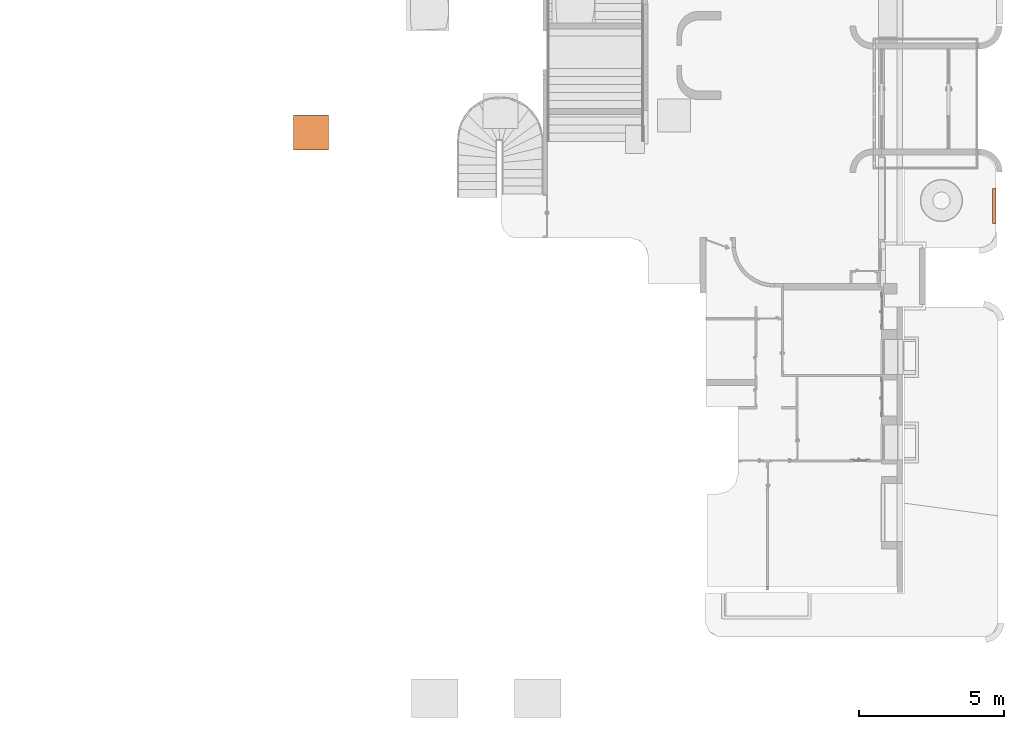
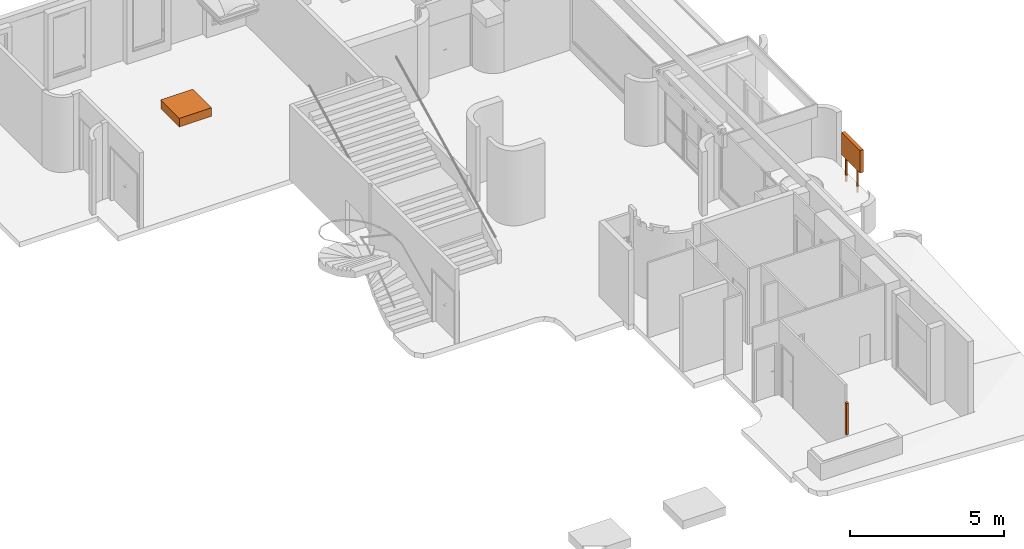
# One storey, part 9 of 10: 3 proxies.
"""IFC2X3 building model written with IfcOpenShell, lengths in metres."""

import ifcopenshell
import ifcopenshell.guid

model = None  # the IFC model being written
_history = None  # IfcOwnerHistory: only IFC2X3 demands one
_inside = {}  # id of a spatial element -> (the spatial element, [elements in it])
_under = {}  # id of a project, library or spatial element -> (it, [spatial elements below it])
_declared = {}  # id of a project -> (the project, [libraries it declares])
_typed = {}  # id of a type object -> (the type object, [elements of that type])
_made_of = {}  # id of a material, layer set ... -> (it, [elements and type objects made of it])


def new_model(schema):
    """Start an empty IFC model of exactly this schema.

    Asked for "IFC4X3", IfcOpenShell would pick the latest addendum, in which some entities
    have other attributes; the version numbers below select the first issue.
    IFC2X3 requires an IfcOwnerHistory on every rooted entity: one is made here for all.
    """
    global model, _history
    if schema == "IFC4X3":
        model = ifcopenshell.file(schema_version=(4, 3, 0, 0))
    else:
        model = ifcopenshell.file(schema=schema)
    _inside.clear()
    _under.clear()
    _declared.clear()
    _typed.clear()
    _made_of.clear()
    _history = None
    if model.schema == "IFC2X3":
        org = make("IfcOrganization", Name="unknown")
        user = make(
            "IfcPersonAndOrganization",
            ThePerson=make("IfcPerson", FamilyName="unknown"),
            TheOrganization=org,
        )
        app = make(
            "IfcApplication",
            ApplicationDeveloper=org,
            Version="unknown",
            ApplicationFullName="unknown",
            ApplicationIdentifier="unknown",
        )
        _history = make(
            "IfcOwnerHistory",
            OwningUser=user,
            OwningApplication=app,
            ChangeAction="ADDED",
            CreationDate=0,
        )
    return model


def make(cls, **values):
    """One entity of the class cls with the attributes given. An attribute that is None is left unset."""
    return model.create_entity(
        cls, **{name: value for name, value in values.items() if value is not None}
    )


def entity(cls, *values):
    """Any entity or typed value of the class cls, its attributes in the order of the schema. None: left unset."""
    e = model.create_entity(cls)
    for i, value in enumerate(values):
        if value is not None:
            e[i] = value
    return e


def rooted(cls, **values):
    """An entity with a GlobalId (a new one), such as an element, a storey or a relation."""
    return make(cls, GlobalId=ifcopenshell.guid.new(), OwnerHistory=_history, **values)


def si_unit(unit_type, name, prefix=None):
    """IfcSIUnit, for example si_unit("LENGTHUNIT", "METRE", prefix="MILLI")."""
    return make("IfcSIUnit", UnitType=unit_type, Prefix=prefix, Name=name)


def converted_unit(unit_type, name, factor, base, dimensions=None, offset=None):
    """IfcConversionBasedUnit, such as the inch: factor (a typed value) times the base unit."""
    return make(
        "IfcConversionBasedUnit"
        if offset is None
        else "IfcConversionBasedUnitWithOffset",
        ConversionOffset=offset,
        Dimensions=None
        if dimensions is None
        else entity("IfcDimensionalExponents", *dimensions),
        UnitType=unit_type,
        Name=name,
        ConversionFactor=make(
            "IfcMeasureWithUnit", ValueComponent=factor, UnitComponent=base
        ),
    )


def derived_unit(unit_type, elements):
    """IfcDerivedUnit: a product of units, each with its exponent."""
    return make(
        "IfcDerivedUnit",
        Elements=[
            make("IfcDerivedUnitElement", Unit=unit, Exponent=power)
            for unit, power in elements
        ],
        UnitType=unit_type,
    )


def assignment(units):
    """IfcUnitAssignment: the units of a project."""
    return None if units is None else make("IfcUnitAssignment", Units=units)


def point(xyz):
    """IfcCartesianPoint."""
    return None if xyz is None else make("IfcCartesianPoint", Coordinates=xyz)


def direction(xyz):
    """IfcDirection."""
    return None if xyz is None else make("IfcDirection", DirectionRatios=xyz)


def frame(location, z_axis=None, x_axis=None):
    """IfcAxis2Placement3D, a coordinate frame: its origin and axes. An axis left out is left unset."""
    return make(
        "IfcAxis2Placement3D",
        Location=point(location),
        Axis=direction(z_axis),
        RefDirection=direction(x_axis),
    )


def frame_2d(location, x_axis=None):
    """IfcAxis2Placement2D, a coordinate frame in the plane: its origin and x axis."""
    return make(
        "IfcAxis2Placement2D", Location=point(location), RefDirection=direction(x_axis)
    )


def origin():
    """The frame at (0, 0, 0) with its axes left unset."""
    return frame((0.0, 0.0, 0.0))


def origin_2d_with_axis():
    """The frame at (0, 0) in the plane with the x axis (1, 0) written out."""
    return frame_2d((0.0, 0.0), x_axis=(1.0, 0.0))


def place(relative_to, where):
    """IfcLocalPlacement: puts the frame where relative to a parent placement (None: the world)."""
    return make(
        "IfcLocalPlacement", PlacementRelTo=relative_to, RelativePlacement=where
    )


def context(
    kind, dimensions, precision=None, world=None, true_north=None, identifier=None
):
    """IfcGeometricRepresentationContext, for example the 3D "Model" context."""
    return make(
        "IfcGeometricRepresentationContext",
        ContextIdentifier=identifier,
        ContextType=kind,
        CoordinateSpaceDimension=dimensions,
        Precision=precision,
        WorldCoordinateSystem=world,
        TrueNorth=true_north,
    )


def subcontext(parent, identifier, kind, view, scale=None):
    """IfcGeometricRepresentationSubContext, for example "Body" below "Model"."""
    return make(
        "IfcGeometricRepresentationSubContext",
        ContextIdentifier=identifier,
        ContextType=kind,
        ParentContext=parent,
        TargetScale=scale,
        TargetView=view,
    )


def project(units=None, contexts=None):
    """IfcProject with its units and contexts."""
    return rooted(
        "IfcProject",
        Name="project",
        RepresentationContexts=contexts,
        UnitsInContext=assignment(units),
    )


def spatial(cls, under=None, at=None, **own):
    """A site, building, storey or space (cls), placed at a placement, below another one or the project."""
    s = rooted(cls, ObjectPlacement=at, **own)
    if under is not None:
        _under.setdefault(under.id(), (under, []))[1].append(s)
    return s


def profile(cls, at=None, kind="AREA", **sizes):
    """A parametric profile (cls). Its sizes go by their IFC names, for example OverallWidth=200.0."""
    return make(cls, ProfileType=kind, Position=at, **sizes)


def rectangle(**sizes):
    """IfcRectangleProfileDef."""
    return profile("IfcRectangleProfileDef", **sizes)


def extrude(swept, where, along, depth):
    """IfcExtrudedAreaSolid: the profile swept, set in the frame where, extruded along a direction by depth."""
    return make(
        "IfcExtrudedAreaSolid",
        SweptArea=swept,
        Position=where,
        ExtrudedDirection=direction(along),
        Depth=depth,
    )


def faces_of(points, faces, orient=None, outer=None):
    """IfcFace entities. A face is a list of loops; a loop is a list of indices into points, from 0.

    orient and outer hold one flag for each loop. By default every Orientation is true, the
    first loop of a face is its IfcFaceOuterBound and the others are IfcFaceBound.
    """
    made = []
    for i, loops in enumerate(faces):
        bounds = []
        for j, loop in enumerate(loops):
            is_outer = j == 0 if outer is None else outer[i][j]
            bounds.append(
                make(
                    "IfcFaceOuterBound" if is_outer else "IfcFaceBound",
                    Bound=make("IfcPolyLoop", Polygon=[points[k] for k in loop]),
                    Orientation=True if orient is None else orient[i][j],
                )
            )
        made.append(make("IfcFace", Bounds=bounds))
    return made


def faceted_brep(points, faces, orient=None, outer=None, voids=None):
    """IfcFacetedBrep: a solid bounded by flat faces; with voids (closed shells), ...WithVoids."""
    shared = [point(p) for p in points]
    hull = make("IfcClosedShell", CfsFaces=faces_of(shared, faces, orient, outer))
    if voids is None:
        return make("IfcFacetedBrep", Outer=hull)
    return make(
        "IfcFacetedBrepWithVoids",
        Outer=hull,
        Voids=[
            make(cls, CfsFaces=faces_of(shared, fs, o, b)) for cls, fs, o, b in voids
        ],
    )


def shape(context_of_items, identifier, shape_type, items):
    """IfcShapeRepresentation: the items that make up one representation, for example the "Body"."""
    return make(
        "IfcShapeRepresentation",
        ContextOfItems=context_of_items,
        RepresentationIdentifier=identifier,
        RepresentationType=shape_type,
        Items=items,
    )


def source(mapping_origin, context_of_items, identifier, shape_type, items):
    """IfcRepresentationMap: a shape defined once, which mapped items show again and again."""
    return make(
        "IfcRepresentationMap",
        MappingOrigin=mapping_origin,
        MappedRepresentation=shape(context_of_items, identifier, shape_type, items),
    )


def transform(
    local_origin,
    x_axis=None,
    y_axis=None,
    z_axis=None,
    scale=None,
    scale2=None,
    scale3=None,
    uniform=True,
):
    """IfcCartesianTransformationOperator3D, or its non-uniform kind. x_axis, y_axis, z_axis: its Axis1, 2, 3."""
    if uniform:
        return make(
            "IfcCartesianTransformationOperator3D",
            Axis1=direction(x_axis),
            Axis2=direction(y_axis),
            LocalOrigin=point(local_origin),
            Scale=scale,
            Axis3=direction(z_axis),
        )
    return make(
        "IfcCartesianTransformationOperator3DnonUniform",
        Axis1=direction(x_axis),
        Axis2=direction(y_axis),
        LocalOrigin=point(local_origin),
        Scale=scale,
        Axis3=direction(z_axis),
        Scale2=scale2,
        Scale3=scale3,
    )


def mapped(mapping_source, mapping_target):
    """IfcMappedItem: shows the shape of a source again, moved by a transform."""
    return make(
        "IfcMappedItem", MappingSource=mapping_source, MappingTarget=mapping_target
    )


def material(Name=None, Category=None):
    """IfcMaterial."""
    return make("IfcMaterial", Name=Name, Category=Category)


def material_list(materials):
    """IfcMaterialList."""
    return make("IfcMaterialList", Materials=materials)


def made_of(thing, what):
    """Note that an element or type object is made of a material, layer set ...; save() writes the relation."""
    if what is not None:
        _made_of.setdefault(what.id(), (what, []))[1].append(thing)
    return thing


def type_object(cls, material=None, **own):
    """A type object (cls), such as IfcWallType, which elements share."""
    return made_of(rooted(cls, **own), material)


def type_shapes(of_type, sources):
    """Give a type object the sources (RepresentationMaps) that its elements show as mapped items."""
    of_type.RepresentationMaps = sources


def element(
    cls,
    number,
    at=None,
    inside=None,
    cuts=None,
    type_object=None,
    material=None,
    context=None,
    identifier="Body",
    shape_type=None,
    held_by="IfcProductDefinitionShape",
    body=None,
    shapes=None,
    **own,
):
    """One element of the class cls, such as IfcWall. Its Tag is "e" and its number.

    at: its placement. inside: the storey or other place that contains it. cuts: it is an
    opening in that element (IfcRelVoidsElement). A single representation is given by context,
    identifier, shape_type and body (its items); several are given by shapes. held_by: the class
    of the entity that holds the representations. save() writes the other relations.
    """
    e = rooted(cls, Tag="e%d" % number, ObjectPlacement=at, **own)
    if body is not None:
        shapes = [shape(context, identifier, shape_type, body)]
    if shapes is not None:
        e.Representation = make(held_by, Representations=shapes)
    if inside is not None:
        _inside.setdefault(inside.id(), (inside, []))[1].append(e)
    if cuts is not None:
        rooted(
            "IfcRelVoidsElement", RelatingBuildingElement=cuts, RelatedOpeningElement=e
        )
    if type_object is not None:
        _typed.setdefault(type_object.id(), (type_object, []))[1].append(e)
    return made_of(e, material)


def aggregate(whole, parts):
    """IfcRelAggregates: a whole, such as a stair, and the parts it consists of."""
    return rooted("IfcRelAggregates", RelatingObject=whole, RelatedObjects=parts)


def save(model, path):
    """Write the relations noted so far, then the file.

    IfcRelAggregates (storeys below a building ...), IfcRelContainedInSpatialStructure (elements
    in a storey), IfcRelDefinesByType, IfcRelAssociatesMaterial and IfcRelDeclares: one each for
    every whole, place, type object, material and project.
    """
    for whole, parts in _under.values():
        aggregate(whole, parts)
    for where, things in _inside.values():
        rooted(
            "IfcRelContainedInSpatialStructure",
            RelatedElements=things,
            RelatingStructure=where,
        )
    for kind, things in _typed.values():
        rooted("IfcRelDefinesByType", RelatedObjects=things, RelatingType=kind)
    for what, things in _made_of.values():
        rooted("IfcRelAssociatesMaterial", RelatedObjects=things, RelatingMaterial=what)
    for by, libraries in _declared.values():
        rooted("IfcRelDeclares", RelatingContext=by, RelatedDefinitions=libraries)
    model.write(path)


model = new_model("IFC2X3")

# Units and contexts
model_context = context("Model", 3, precision=1e-05, world=origin(), true_north=direction((6.12303176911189e-17, 1.0)))
body_context = subcontext(model_context, "Body", "Model", "MODEL_VIEW")
ifc_project = project(units=[si_unit("LENGTHUNIT", "METRE"), si_unit("AREAUNIT", "SQUARE_METRE"), si_unit("VOLUMEUNIT", "CUBIC_METRE"), converted_unit("PLANEANGLEUNIT", "DEGREE", entity("IfcRatioMeasure", 0.0174532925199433), si_unit("PLANEANGLEUNIT", "RADIAN"), dimensions=[0, 0, 0, 0, 0, 0, 0]), si_unit("MASSUNIT", "GRAM", prefix="KILO"), derived_unit("MASSDENSITYUNIT", [(si_unit("MASSUNIT", "GRAM", prefix="KILO"), 1), (si_unit("LENGTHUNIT", "METRE"), -3)]), derived_unit("MOMENTOFINERTIAUNIT", [(si_unit("LENGTHUNIT", "METRE"), 4)]), si_unit("TIMEUNIT", "SECOND"), si_unit("FREQUENCYUNIT", "HERTZ"), si_unit("THERMODYNAMICTEMPERATUREUNIT", "DEGREE_CELSIUS"), derived_unit("THERMALTRANSMITTANCEUNIT", [(si_unit("MASSUNIT", "GRAM", prefix="KILO"), 1), (si_unit("THERMODYNAMICTEMPERATUREUNIT", "KELVIN"), -1), (si_unit("TIMEUNIT", "SECOND"), -3)]), derived_unit("VOLUMETRICFLOWRATEUNIT", [(si_unit("LENGTHUNIT", "METRE"), 3), (si_unit("TIMEUNIT", "SECOND"), -1)]), si_unit("ELECTRICCURRENTUNIT", "AMPERE"), si_unit("ELECTRICVOLTAGEUNIT", "VOLT"), si_unit("POWERUNIT", "WATT"), si_unit("FORCEUNIT", "NEWTON", prefix="KILO"), si_unit("ILLUMINANCEUNIT", "LUX"), si_unit("LUMINOUSFLUXUNIT", "LUMEN"), si_unit("LUMINOUSINTENSITYUNIT", "CANDELA"), derived_unit("USERDEFINED", [(si_unit("MASSUNIT", "GRAM", prefix="KILO"), -1), (si_unit("LENGTHUNIT", "METRE"), -2), (si_unit("TIMEUNIT", "SECOND"), 3), (si_unit("LUMINOUSFLUXUNIT", "LUMEN"), 1)]), derived_unit("LINEARVELOCITYUNIT", [(si_unit("LENGTHUNIT", "METRE"), 1), (si_unit("TIMEUNIT", "SECOND"), -1)]), si_unit("PRESSUREUNIT", "PASCAL"), derived_unit("USERDEFINED", [(si_unit("LENGTHUNIT", "METRE"), -2), (si_unit("MASSUNIT", "GRAM", prefix="KILO"), 1), (si_unit("TIMEUNIT", "SECOND"), -2)]), derived_unit("LINEARFORCEUNIT", [(si_unit("MASSUNIT", "GRAM", prefix="KILO"), 1), (si_unit("LENGTHUNIT", "METRE"), 1), (si_unit("TIMEUNIT", "SECOND"), -2), (si_unit("LENGTHUNIT", "METRE"), -1)]), derived_unit("PLANARFORCEUNIT", [(si_unit("MASSUNIT", "GRAM", prefix="KILO"), 1), (si_unit("LENGTHUNIT", "METRE"), 1), (si_unit("TIMEUNIT", "SECOND"), -2), (si_unit("LENGTHUNIT", "METRE"), -2)])], contexts=[model_context])

# Site, building, storey
site_placement = place(None, origin())
site = spatial("IfcSite", under=ifc_project, at=site_placement, Name="Default", CompositionType="ELEMENT")
building_placement = place(site_placement, origin())
building = spatial("IfcBuilding", under=site, at=building_placement, CompositionType="ELEMENT")
storey_placement = place(building_placement, frame((0.0, 0.0, 0.893308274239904)))
storey = spatial("IfcBuildingStorey", under=building, at=storey_placement, Name="Niveau 00 - 02", CompositionType="ELEMENT", Elevation=0.893308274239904)

# Proxies
ifc_material_1 = material(Name="Verre")
ifc_material_2 = material(Name="Métal - Aluminium")
ifc_material_list_1 = material_list([ifc_material_1, ifc_material_2])
ifc_material_list_2 = material_list([ifc_material_2, ifc_material_1])
building_element_proxy_type_1 = type_object("IfcBuildingElementProxyType", Name="Famille 0:Famille 110x110", PredefinedType="NOTDEFINED", material=ifc_material_list_2)
shared_shape_1 = source(origin(), body_context, "Body", "Brep", [
    faceted_brep([(0.575, -0.575000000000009, 0.175991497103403), (-0.575, -0.575000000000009, 0.175991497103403), (-0.575, 0.574999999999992, 0.175991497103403), (0.575, 0.574999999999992, 0.175991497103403), (0.575, -0.575000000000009, 0.195154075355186), (0.575, 0.574999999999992, 0.195154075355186), (-0.575, 0.574999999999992, 0.195154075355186), (-0.575, -0.575000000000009, 0.195154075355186)], [[[0, 1, 2, 3]], [[4, 5, 6, 7]], [[5, 4, 0, 3]], [[6, 5, 3, 2]], [[7, 6, 2, 1]], [[4, 7, 1, 0]]]),
    faceted_brep([(-0.575, -0.575000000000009, 0.195154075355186), (-0.607499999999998, -0.607500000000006, 0.195154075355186), (0.607499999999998, -0.607500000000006, 0.195154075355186), (0.575, -0.575000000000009, 0.195154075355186), (-0.549999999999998, -0.550000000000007, -0.150000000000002), (-0.549999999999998, -0.550000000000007, 0.175991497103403), (0.549999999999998, -0.550000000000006, 0.175991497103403), (0.549999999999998, -0.550000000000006, -0.150000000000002), (-0.599999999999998, -0.600000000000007, -0.150000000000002), (0.599999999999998, -0.600000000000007, -0.150000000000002), (0.607499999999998, 0.60749999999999, 0.195154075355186), (0.575, 0.574999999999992, 0.195154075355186), (0.549999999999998, 0.54999999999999, 0.175991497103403), (0.549999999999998, 0.54999999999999, -0.150000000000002), (0.599999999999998, 0.59999999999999, -0.150000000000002), (-0.607499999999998, 0.60749999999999, 0.195154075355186), (-0.575, 0.574999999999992, 0.195154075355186), (-0.549999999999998, 0.54999999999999, 0.175991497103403), (-0.549999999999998, 0.54999999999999, -0.150000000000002), (-0.599999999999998, 0.59999999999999, -0.150000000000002), (-0.607499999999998, -0.607500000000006, 0.169999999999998), (-0.599999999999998, -0.600000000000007, 0.169999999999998), (0.599999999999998, -0.600000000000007, 0.169999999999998), (0.607499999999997, -0.607500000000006, 0.169999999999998), (-0.575, -0.575000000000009, 0.175991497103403), (0.575, -0.575000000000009, 0.175991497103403), (0.599999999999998, 0.59999999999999, 0.169999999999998), (0.607499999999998, 0.60749999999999, 0.169999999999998), (0.575, 0.574999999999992, 0.175991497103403), (-0.599999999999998, 0.59999999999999, 0.169999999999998), (-0.607499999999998, 0.60749999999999, 0.169999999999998), (-0.575, 0.574999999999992, 0.175991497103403)], [[[0, 1, 2, 3]], [[4, 5, 6, 7]], [[8, 4, 7, 9]], [[3, 2, 10, 11]], [[7, 6, 12, 13]], [[9, 7, 13, 14]], [[11, 10, 15, 16]], [[13, 12, 17, 18]], [[14, 13, 18, 19]], [[16, 15, 1, 0]], [[18, 17, 5, 4]], [[19, 18, 4, 8]], [[20, 21, 22, 23]], [[24, 0, 3, 25]], [[5, 24, 25, 6]], [[23, 22, 26, 27]], [[25, 3, 11, 28]], [[6, 25, 28, 12]], [[27, 26, 29, 30]], [[28, 11, 16, 31]], [[12, 28, 31, 17]], [[30, 29, 21, 20]], [[31, 16, 0, 24]], [[17, 31, 24, 5]], [[21, 8, 9, 22]], [[1, 20, 23, 2]], [[22, 9, 14, 26]], [[2, 23, 27, 10]], [[26, 14, 19, 29]], [[10, 27, 30, 15]], [[29, 19, 8, 21]], [[15, 30, 20, 1]]]),
])
type_shapes(building_element_proxy_type_1, [shared_shape_1])
proxy_1_placement = place(storey_placement, frame((-17.374093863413, -5.13394034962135, 9.96), z_axis=(0.0, 0.0, 1.0), x_axis=(0.0, -1.0, 0.0)))
element("IfcBuildingElementProxy", 1, at=proxy_1_placement, inside=storey, type_object=building_element_proxy_type_1, material=ifc_material_list_1, Name="Famille 0:Famille 110x110", ObjectType="Famille 0:Famille 110x110", context=body_context, shape_type="MappedRepresentation", body=[
    mapped(shared_shape_1, transform((0.0, 0.0, 0.0), scale=1.0)),
])
building_element_proxy_type_2 = type_object("IfcBuildingElementProxyType", Name="Modèles génériques 4:Modèles génériques 4", PredefinedType="NOTDEFINED")
shared_shape_2 = source(origin(), body_context, "Body", "SweptSolid", [
    extrude(rectangle(XDim=0.0549999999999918, YDim=0.0456803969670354, at=frame_2d((0.0, -5.41233724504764e-16), x_axis=(1.0, 0.0))), frame((6.29673832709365, -8.03661678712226, 1.04808386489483)), (0.0, 0.0, 1.0), 0.908724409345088),
    extrude(rectangle(XDim=0.0549999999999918, YDim=0.0456803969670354, at=frame_2d((0.0, -5.41233724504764e-16), x_axis=(1.0, 0.0))), frame((6.29673832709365, -7.31966533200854, 1.04808386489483)), (0.0, 0.0, 1.0), 0.908724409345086),
    extrude(rectangle(XDim=0.122777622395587, YDim=1.20010733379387, at=origin_2d_with_axis()), frame((6.33062713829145, -7.668269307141, 1.95680827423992)), (0.0, 0.0, 1.0), 0.896110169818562),
])
type_shapes(building_element_proxy_type_2, [shared_shape_2])
proxy_2_placement = place(storey_placement, frame((-0.12, 0.0, -0.893308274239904)))
element("IfcBuildingElementProxy", 2, at=proxy_2_placement, inside=storey, type_object=building_element_proxy_type_2, Name="Modèles génériques 4:Modèles génériques 4", ObjectType="Modèles génériques 4:Modèles génériques 4", context=body_context, shape_type="MappedRepresentation", body=[
    mapped(shared_shape_2, transform((0.0, 0.0, 0.0), scale=1.0)),
])
building_element_proxy_type_3 = type_object("IfcBuildingElementProxyType", Name="Modèles génériques 6:Modèles génériques 6", PredefinedType="NOTDEFINED")
shared_shape_3 = source(origin(), body_context, "Body", "SweptSolid", [
    extrude(rectangle(XDim=0.105000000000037, YDim=0.0799999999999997, at=origin_2d_with_axis()), frame((-1.61979598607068, -20.858753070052, 1.94808386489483), z_axis=(0.0, 0.0, 1.0), x_axis=(0.0, -1.0, 0.0)), (0.0, 0.0, 1.0), 1.25),
])
type_shapes(building_element_proxy_type_3, [shared_shape_3])
proxy_3_placement = place(storey_placement, frame((0.0, 0.0, -0.893308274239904)))
element("IfcBuildingElementProxy", 3, at=proxy_3_placement, inside=storey, type_object=building_element_proxy_type_3, Name="Modèles génériques 6:Modèles génériques 6", ObjectType="Modèles génériques 6:Modèles génériques 6", context=body_context, shape_type="MappedRepresentation", body=[
    mapped(shared_shape_3, transform((0.0, 0.0, 0.0), scale=1.0)),
])

save(model, "model.ifc")
